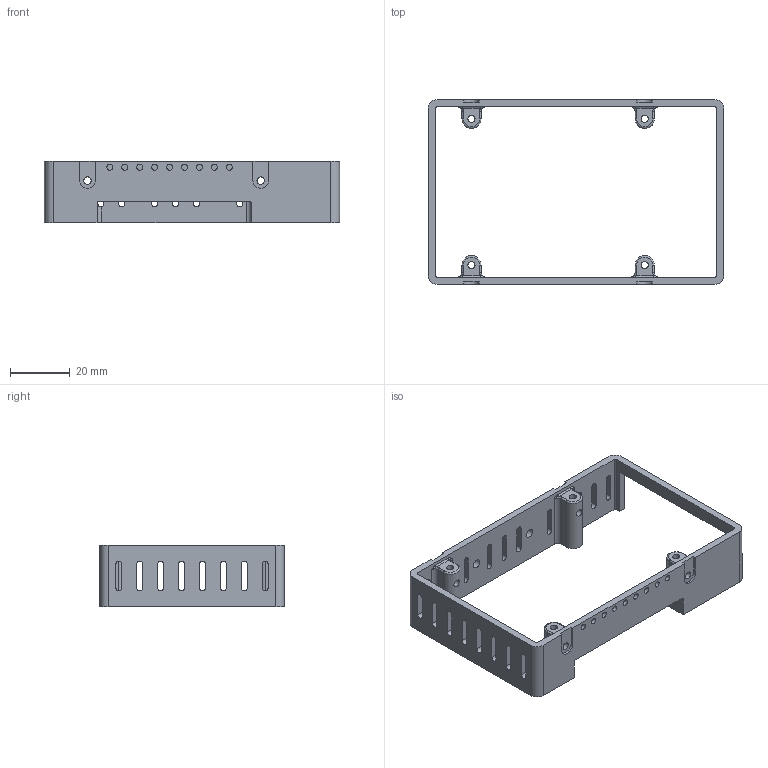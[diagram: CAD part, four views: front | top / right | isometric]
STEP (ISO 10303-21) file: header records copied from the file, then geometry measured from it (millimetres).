
FILE_DESCRIPTION(/* description */ (''),/* implementation_level */ '2;1');
FILE_NAME(/* name */ 'C:/Users/Prashant/Desktop/RTD enclosure/3D Printing/STEP files/Ring PI 1.step',/* time_stamp */ '2021-07-26T15:03:15+06:00',/* author */ (''),/* organization */ (''),/* preprocessor_version */ 'ST-DEVELOPER v18.1',/* originating_system */ 'Autodesk Translation Framework v10.9.0.1377',/* authorisation */ '');
FILE_SCHEMA (('AUTOMOTIVE_DESIGN { 1 0 10303 214 3 1 1 }'));
Length unit declared in the file: millimetre
Products named in the file (1): Ring PI 1
Bounding box: 98.8 x 61.8 x 20.6 mm (x, y, z)
Volume: 14026.1 mm3; surface area: 14079.1 mm2
Topology: 1 solids, 1 shells, 194 faces, 562 edges, 360 vertices
Faces by surface type: cylinder 99, plane 75, torus 12, bspline 8
Full cylindrical faces by diameter (mm): 2 x9, 2.4 x8, 2.5 x4, 3 x2
Entity records: 7486 total; most frequent: CARTESIAN_POINT 2133, ORIENTED_EDGE 1108, DIRECTION 1088, EDGE_CURVE 554, AXIS2_PLACEMENT_3D 383, VERTEX_POINT 360, LINE 322, VECTOR 322
